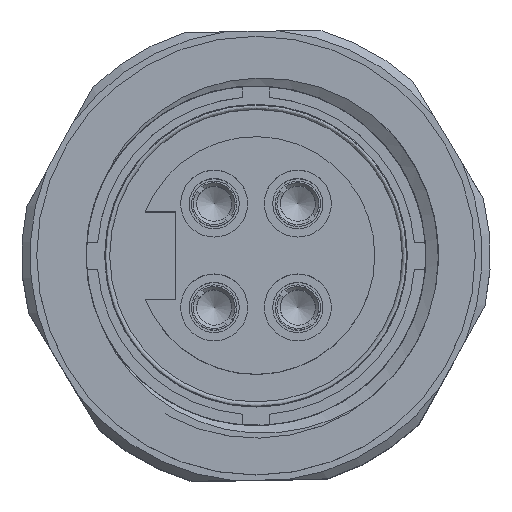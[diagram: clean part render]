
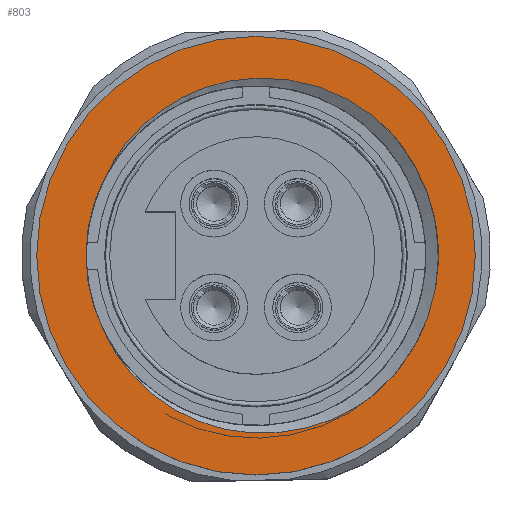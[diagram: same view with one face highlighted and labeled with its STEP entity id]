
A CAD part, top view. The second image highlights one B-rep face of the part: STEP entity #803.
In plain terms, the highlighted planar face has unit normal (0, 0, 1).
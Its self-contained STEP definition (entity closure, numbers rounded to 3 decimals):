
#180=B_SPLINE_CURVE_WITH_KNOTS('',3,(#10762,#10763,#10764,#10765,#10766,
#10767),.UNSPECIFIED.,.F.,.F.,(4,2,4),(0.,0.5,1.),.UNSPECIFIED.);
#183=B_SPLINE_CURVE_WITH_KNOTS('',3,(#11136,#11137,#11138,#11139,#11140,
#11141),.UNSPECIFIED.,.F.,.F.,(4,2,4),(0.,0.5,1.),.UNSPECIFIED.);
#305=PLANE('',#7191);
#625=FACE_BOUND('',#1626,.T.);
#626=FACE_BOUND('',#1627,.T.);
#803=ADVANCED_FACE('',(#625,#626),#305,.T.);
#1626=EDGE_LOOP('',(#2904,#2905,#2906,#2907));
#1627=EDGE_LOOP('',(#2908));
#2089=CIRCLE('',#7186,10.9);
#2090=CIRCLE('',#7189,10.15);
#2091=CIRCLE('',#7190,13.1);
#2904=ORIENTED_EDGE('',*,*,#5319,.F.);
#2905=ORIENTED_EDGE('',*,*,#5321,.F.);
#2906=ORIENTED_EDGE('',*,*,#5314,.F.);
#2907=ORIENTED_EDGE('',*,*,#5308,.F.);
#2908=ORIENTED_EDGE('',*,*,#5322,.T.);
#4553=VERTEX_POINT('',#10616);
#4554=VERTEX_POINT('',#10617);
#4559=VERTEX_POINT('',#10768);
#4562=VERTEX_POINT('',#11142);
#4563=VERTEX_POINT('',#11505);
#5308=EDGE_CURVE('',#4553,#4554,#2089,.T.);
#5314=EDGE_CURVE('',#4554,#4559,#180,.T.);
#5319=EDGE_CURVE('',#4562,#4553,#183,.T.);
#5321=EDGE_CURVE('',#4559,#4562,#2090,.T.);
#5322=EDGE_CURVE('',#4563,#4563,#2091,.T.);
#7186=AXIS2_PLACEMENT_3D('',#10615,#8381,#8382);
#7189=AXIS2_PLACEMENT_3D('',#11503,#8390,#8391);
#7190=AXIS2_PLACEMENT_3D('',#11504,#8392,#8393);
#7191=AXIS2_PLACEMENT_3D('',#11506,#8394,#8395);
#8381=DIRECTION('',(0.,0.,1.));
#8382=DIRECTION('',(-1.,0.,0.));
#8390=DIRECTION('',(0.,0.,1.));
#8391=DIRECTION('',(1.,0.,0.));
#8392=DIRECTION('',(0.,0.,1.));
#8393=DIRECTION('',(1.,0.,0.));
#8394=DIRECTION('',(0.,0.,1.));
#8395=DIRECTION('',(-1.,0.,0.));
#10615=CARTESIAN_POINT('',(-54.915,5.739,29.3));
#10616=CARTESIAN_POINT('',(-47.881,-2.587,29.3));
#10617=CARTESIAN_POINT('',(-47.881,14.066,29.3));
#10762=CARTESIAN_POINT('',(-47.881,14.066,29.3));
#10763=CARTESIAN_POINT('',(-50.41,16.043,29.3));
#10764=CARTESIAN_POINT('',(-53.771,16.81,29.3));
#10765=CARTESIAN_POINT('',(-60.021,15.357,29.3));
#10766=CARTESIAN_POINT('',(-62.713,13.167,29.3));
#10767=CARTESIAN_POINT('',(-64.017,10.231,29.3));
#10768=CARTESIAN_POINT('',(-64.017,10.231,29.3));
#11136=CARTESIAN_POINT('',(-64.017,1.248,29.3));
#11137=CARTESIAN_POINT('',(-62.714,-1.687,29.3));
#11138=CARTESIAN_POINT('',(-60.009,-3.881,29.3));
#11139=CARTESIAN_POINT('',(-53.778,-5.328,29.3));
#11140=CARTESIAN_POINT('',(-50.409,-4.564,29.3));
#11141=CARTESIAN_POINT('',(-47.881,-2.587,29.3));
#11142=CARTESIAN_POINT('',(-64.017,1.248,29.3));
#11503=CARTESIAN_POINT('',(-54.915,5.739,29.3));
#11504=CARTESIAN_POINT('',(-54.915,5.739,29.3));
#11505=CARTESIAN_POINT('',(-41.815,5.739,29.3));
#11506=CARTESIAN_POINT('',(-54.915,5.739,29.3));
